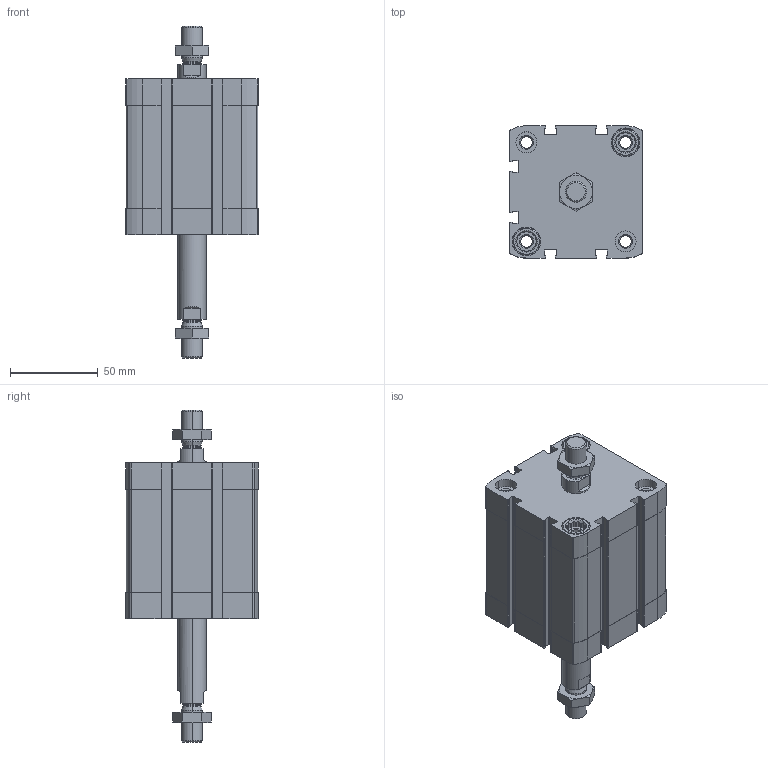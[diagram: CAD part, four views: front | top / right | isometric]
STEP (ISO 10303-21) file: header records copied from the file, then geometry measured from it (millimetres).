
FILE_DESCRIPTION (( 'STEP AP203' ), '1' );
FILE_NAME ('CCN63-40-P.STEP', '2020-06-22T19:02:20', ( '' ), ( '' ), 'SwSTEP 2.0', 'SolidWorks 2019', '' );
FILE_SCHEMA (( 'CONFIG_CONTROL_DESIGN' ));
Length unit declared in the file: millimetre
Products named in the file (1): CCN63-40-P
Bounding box: 75.5 x 75.5 x 189.4 mm (x, y, z)
Volume: 366965.9 mm3; surface area: 92754.4 mm2
Topology: 4 solids, 4 shells, 528 faces, 1396 edges, 908 vertices
Faces by surface type: plane 240, cylinder 220, cone 60, torus 8
Entity records: 17259 total; most frequent: CARTESIAN_POINT 3829, DIRECTION 2850, ORIENTED_EDGE 2792, EDGE_CURVE 1396, AXIS2_PLACEMENT_3D 1049, VERTEX_POINT 908, LINE 752, VECTOR 752
